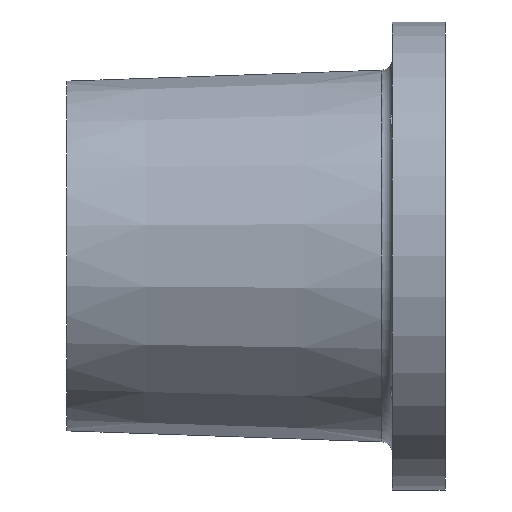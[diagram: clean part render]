
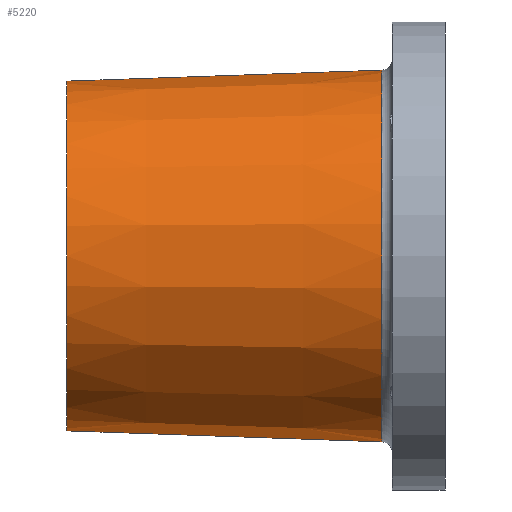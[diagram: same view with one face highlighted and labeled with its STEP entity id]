
A CAD part, left-side view. The second image highlights one B-rep face of the part: STEP entity #5220.
In plain terms, the highlighted conical face has half-angle 2 degrees and reference radius 71.141 mm.
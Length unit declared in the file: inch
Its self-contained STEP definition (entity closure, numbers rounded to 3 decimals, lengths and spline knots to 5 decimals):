
#66 = CIRCLE ( 'NONE', #3461, 2.97793 ) ;
#113 = EDGE_CURVE ( 'NONE', #4460, #4869, #2044, .T. ) ;
#131 = EDGE_CURVE ( 'NONE', #2328, #5375, #3146, .T. ) ;
#143 = EDGE_CURVE ( 'NONE', #2328, #4460, #1015, .T. ) ;
#432 = DIRECTION ( 'NONE',  ( 0., 0., -1. ) ) ;
#948 = DIRECTION ( 'NONE',  ( 0., -1., 0. ) ) ;
#1015 = CIRCLE ( 'NONE', #5625, 2.80185 ) ;
#1099 = ORIENTED_EDGE ( 'NONE', *, *, #131, .T. ) ;
#1478 = FACE_OUTER_BOUND ( 'NONE', #1895, .T. ) ;
#1487 = CARTESIAN_POINT ( 'NONE',  ( 0., 6.089, 0. ) ) ;
#1501 = ORIENTED_EDGE ( 'NONE', *, *, #113, .F. ) ;
#1788 = CARTESIAN_POINT ( 'NONE',  ( 0., 6.089, -2.80084 ) ) ;
#1895 = EDGE_LOOP ( 'NONE', ( #1501, #3238, #1099, #4663 ) ) ;
#1927 = VECTOR ( 'NONE', #6265, 39.37008 ) ;
#2023 = DIRECTION ( 'NONE',  ( 0., 1., 0. ) ) ;
#2044 = LINE ( 'NONE', #2228, #3322 ) ;
#2228 = CARTESIAN_POINT ( 'NONE',  ( 0., 6.089, 2.80084 ) ) ;
#2266 = DIRECTION ( 'NONE',  ( 0., 1., 0. ) ) ;
#2328 = VERTEX_POINT ( 'NONE', #2710 ) ;
#2433 = CARTESIAN_POINT ( 'NONE',  ( 0., 1.01772, 2.97793 ) ) ;
#2575 = CONICAL_SURFACE ( 'NONE', #2588, 2.80084, 0.035 ) ;
#2588 = AXIS2_PLACEMENT_3D ( 'NONE', #1487, #948, #432 ) ;
#2710 = CARTESIAN_POINT ( 'NONE',  ( 0., 6.06, -2.80185 ) ) ;
#3146 = LINE ( 'NONE', #1788, #1927 ) ;
#3173 = DIRECTION ( 'NONE',  ( 0., -0.999, 0.035 ) ) ;
#3238 = ORIENTED_EDGE ( 'NONE', *, *, #143, .F. ) ;
#3322 = VECTOR ( 'NONE', #3173, 39.37008 ) ;
#3461 = AXIS2_PLACEMENT_3D ( 'NONE', #4969, #2023, #5483 ) ;
#4126 = CARTESIAN_POINT ( 'NONE',  ( 0., 1.01772, -2.97793 ) ) ;
#4460 = VERTEX_POINT ( 'NONE', #5739 ) ;
#4663 = ORIENTED_EDGE ( 'NONE', *, *, #5970, .T. ) ;
#4869 = VERTEX_POINT ( 'NONE', #2433 ) ;
#4969 = CARTESIAN_POINT ( 'NONE',  ( 0., 1.01772, 0. ) ) ;
#5220 = ADVANCED_FACE ( 'NONE', ( #1478 ), #2575, .T. ) ;
#5242 = CARTESIAN_POINT ( 'NONE',  ( 0., 6.06, 0. ) ) ;
#5375 = VERTEX_POINT ( 'NONE', #4126 ) ;
#5483 = DIRECTION ( 'NONE',  ( 0., 0., -1. ) ) ;
#5625 = AXIS2_PLACEMENT_3D ( 'NONE', #5242, #2266, #5761 ) ;
#5739 = CARTESIAN_POINT ( 'NONE',  ( 0., 6.06, 2.80185 ) ) ;
#5761 = DIRECTION ( 'NONE',  ( 0., 0., 1. ) ) ;
#5970 = EDGE_CURVE ( 'NONE', #5375, #4869, #66, .T. ) ;
#6265 = DIRECTION ( 'NONE',  ( 0., -0.999, -0.035 ) ) ;
